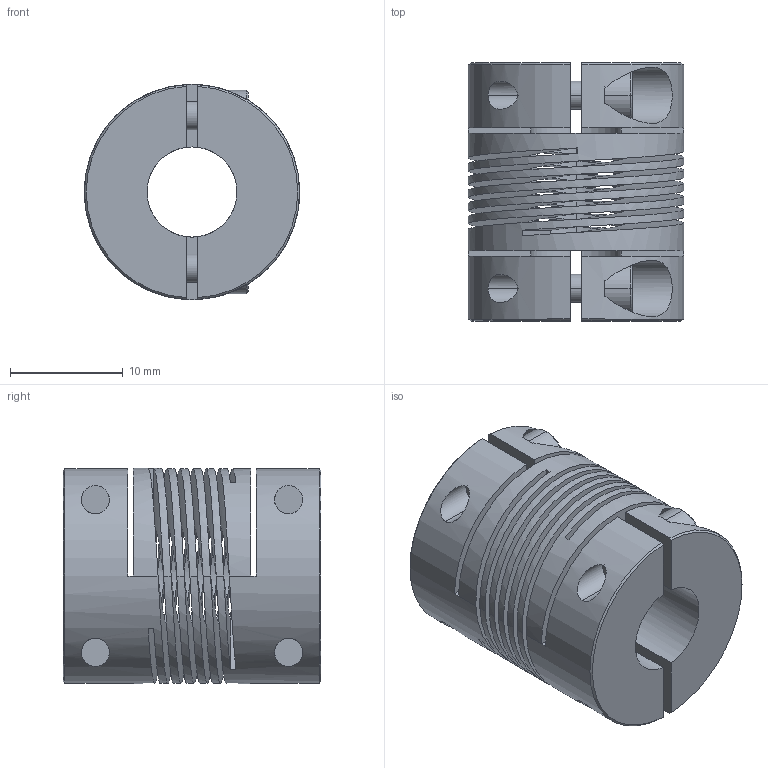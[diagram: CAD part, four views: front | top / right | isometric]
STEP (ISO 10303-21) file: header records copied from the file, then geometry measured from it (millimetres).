
FILE_DESCRIPTION((''),'2;1');
FILE_NAME('721_19','2006-12-05T',('Gary Melling'),(''),'PRO/ENGINEER BY PARAMETRIC TECHNOLOGY CORPORATION, 2006240','PRO/ENGINEER BY PARAMETRIC TECHNOLOGY CORPORATION, 2006240','');
FILE_SCHEMA(('CONFIG_CONTROL_DESIGN'));
Length unit declared in the file: millimetre
Products named in the file (1): 721_19
Bounding box: 19.1 x 22.9 x 19.1 mm (x, y, z)
Volume: 4126.5 mm3; surface area: 6059.5 mm2
Topology: 1 solids, 1 shells, 146 faces, 384 edges, 250 vertices
Faces by surface type: plane 72, cylinder 56, cone 12, bspline 6
Entity records: 6455 total; most frequent: CARTESIAN_POINT 2875, ORIENTED_EDGE 768, DIRECTION 670, EDGE_CURVE 384, VERTEX_POINT 250, AXIS2_PLACEMENT_3D 228, VECTOR 214, LINE 214
